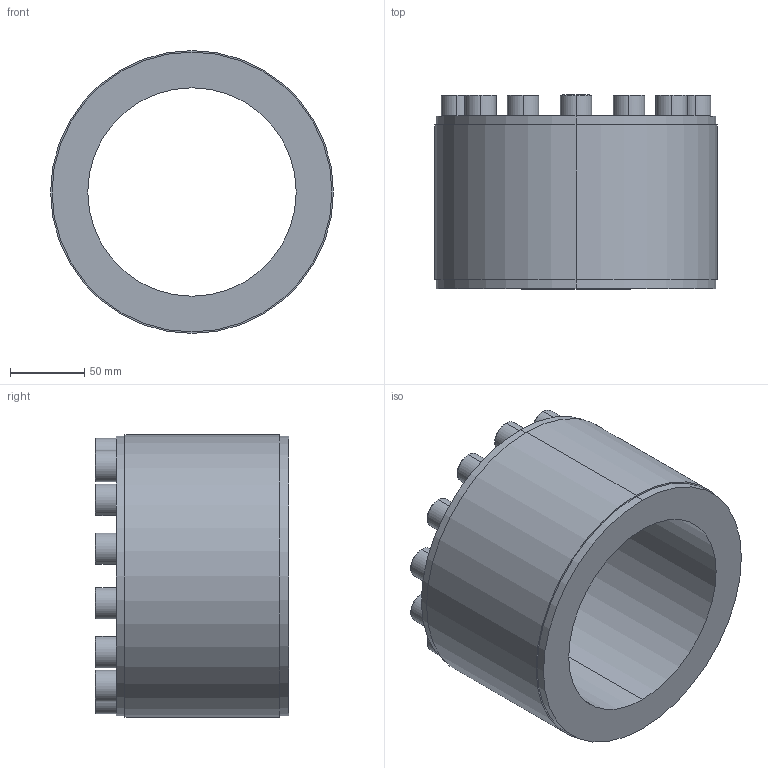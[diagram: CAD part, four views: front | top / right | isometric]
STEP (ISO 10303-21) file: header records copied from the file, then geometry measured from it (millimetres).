
FILE_DESCRIPTION (( 'STEP AP203' ), '1' );
FILE_NAME ('PL-D1 140-190.STEP', '2021-10-23T00:19:38', ( '' ), ( '' ), 'SwSTEP 2.0', 'SolidWorks 2018', '' );
FILE_SCHEMA (( 'CONFIG_CONTROL_DESIGN' ));
Length unit declared in the file: millimetre
Products named in the file (1): PL-D1 140-190
Bounding box: 190 x 130 x 190 mm (x, y, z)
Volume: 1551743.3 mm3; surface area: 162907.7 mm2
Topology: 1 solids, 1 shells, 180 faces, 416 edges, 268 vertices
Faces by surface type: plane 116, cylinder 36, torus 28
Entity records: 5165 total; most frequent: DIRECTION 906, CARTESIAN_POINT 865, ORIENTED_EDGE 832, EDGE_CURVE 416, AXIS2_PLACEMENT_3D 309, VECTOR 288, LINE 288, VERTEX_POINT 268
